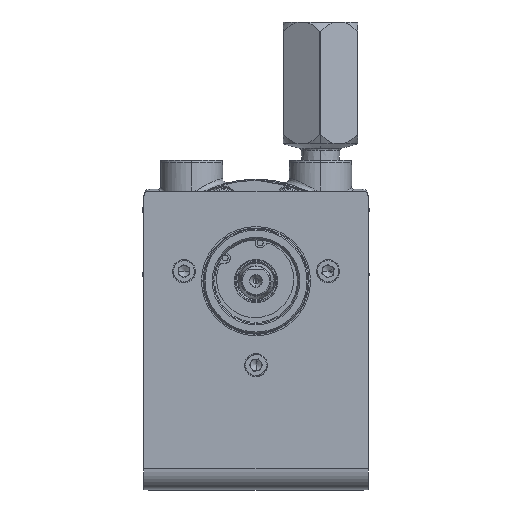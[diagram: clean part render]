
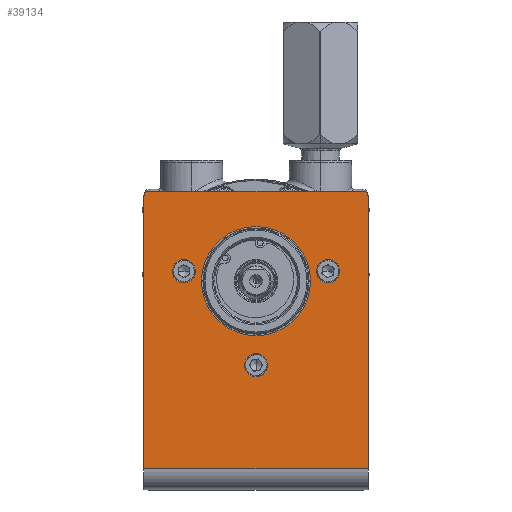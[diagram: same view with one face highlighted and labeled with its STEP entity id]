
A CAD part, top view. The second image highlights one B-rep face of the part: STEP entity #39134.
In plain terms, the highlighted planar face has unit normal (0, 0, 1).
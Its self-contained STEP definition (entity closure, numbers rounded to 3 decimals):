
#197 = VERTEX_POINT ( 'NONE', #8625 ) ;
#231 = DIRECTION ( 'NONE',  ( 0., -1., 0. ) ) ;
#381 = CARTESIAN_POINT ( 'NONE',  ( 47.75, 40.3, 33.025 ) ) ;
#426 = CIRCLE ( 'NONE', #26626, 23.25 ) ;
#516 = EDGE_CURVE ( 'NONE', #19846, #1721, #17754, .T. ) ;
#566 = EDGE_CURVE ( 'NONE', #13139, #29771, #46311, .T. ) ;
#1721 = VERTEX_POINT ( 'NONE', #41703 ) ;
#3548 = CARTESIAN_POINT ( 'NONE',  ( 0., 4., 33.025 ) ) ;
#5964 = ORIENTED_EDGE ( 'NONE', *, *, #566, .T. ) ;
#6533 = DIRECTION ( 'NONE',  ( 0., 0., -1. ) ) ;
#6697 = DIRECTION ( 'NONE',  ( 0., -1., 0. ) ) ;
#7436 = CIRCLE ( 'NONE', #20198, 3.5 ) ;
#7495 = FACE_BOUND ( 'NONE', #25667, .T. ) ;
#7626 = LINE ( 'NONE', #28562, #27120 ) ;
#7691 = CARTESIAN_POINT ( 'NONE',  ( 30.716, 4.73, 33.025 ) ) ;
#8625 = CARTESIAN_POINT ( 'NONE',  ( 45.75, 42.3, 33.025 ) ) ;
#9353 = CARTESIAN_POINT ( 'NONE',  ( 0., 27.25, 33.025 ) ) ;
#9468 = VERTEX_POINT ( 'NONE', #35779 ) ;
#9722 = DIRECTION ( 'NONE',  ( 0., 0., -1. ) ) ;
#9997 = DIRECTION ( 'NONE',  ( 0., 1., 0. ) ) ;
#10183 = CARTESIAN_POINT ( 'NONE',  ( 45.75, 40.3, 33.025 ) ) ;
#11072 = DIRECTION ( 'NONE',  ( 0., 0., -1. ) ) ;
#11123 = CARTESIAN_POINT ( 'NONE',  ( -30.716, 8.23, 33.025 ) ) ;
#11225 = EDGE_CURVE ( 'NONE', #20885, #42453, #426, .T. ) ;
#12069 = EDGE_CURVE ( 'NONE', #46582, #33706, #50120, .T. ) ;
#13139 = VERTEX_POINT ( 'NONE', #26346 ) ;
#13819 = DIRECTION ( 'NONE',  ( 0., 0., -1. ) ) ;
#13825 = EDGE_CURVE ( 'NONE', #9468, #43106, #37310, .T. ) ;
#14424 = CARTESIAN_POINT ( 'NONE',  ( 0., -31.8, 33.025 ) ) ;
#15077 = DIRECTION ( 'NONE',  ( 0., 0., -1. ) ) ;
#15779 = ORIENTED_EDGE ( 'NONE', *, *, #13825, .T. ) ;
#16068 = FACE_BOUND ( 'NONE', #22966, .T. ) ;
#16147 = EDGE_CURVE ( 'NONE', #38070, #46582, #29292, .T. ) ;
#16175 = ORIENTED_EDGE ( 'NONE', *, *, #37025, .T. ) ;
#16180 = EDGE_LOOP ( 'NONE', ( #44542, #35249, #29954, #15779, #50027, #20197 ) ) ;
#16942 = DIRECTION ( 'NONE',  ( 0., 0., -1. ) ) ;
#17557 = CARTESIAN_POINT ( 'NONE',  ( 30.716, 8.23, 33.025 ) ) ;
#17754 = CIRCLE ( 'NONE', #25315, 3.5 ) ;
#18945 = DIRECTION ( 'NONE',  ( 1., 0., 0. ) ) ;
#19692 = CIRCLE ( 'NONE', #42026, 3.5 ) ;
#19753 = ORIENTED_EDGE ( 'NONE', *, *, #11225, .T. ) ;
#19846 = VERTEX_POINT ( 'NONE', #34307 ) ;
#20197 = ORIENTED_EDGE ( 'NONE', *, *, #16147, .T. ) ;
#20198 = AXIS2_PLACEMENT_3D ( 'NONE', #11123, #15077, #49503 ) ;
#20796 = EDGE_LOOP ( 'NONE', ( #29708, #16175 ) ) ;
#20885 = VERTEX_POINT ( 'NONE', #9353 ) ;
#22489 = DIRECTION ( 'NONE',  ( 0., 0., 1. ) ) ;
#22883 = VERTEX_POINT ( 'NONE', #47418 ) ;
#22966 = EDGE_LOOP ( 'NONE', ( #5964, #50213 ) ) ;
#23156 = CARTESIAN_POINT ( 'NONE',  ( 47.75, -84.9, 33.025 ) ) ;
#23219 = ORIENTED_EDGE ( 'NONE', *, *, #33590, .T. ) ;
#23519 = CARTESIAN_POINT ( 'NONE',  ( 0., -28.3, 33.025 ) ) ;
#25238 = CIRCLE ( 'NONE', #44140, 3.5 ) ;
#25315 = AXIS2_PLACEMENT_3D ( 'NONE', #42238, #6533, #6697 ) ;
#25404 = CARTESIAN_POINT ( 'NONE',  ( -47.75, -84.9, 33.025 ) ) ;
#25667 = EDGE_LOOP ( 'NONE', ( #48625, #23219 ) ) ;
#26059 = AXIS2_PLACEMENT_3D ( 'NONE', #28152, #16942, #35836 ) ;
#26303 = DIRECTION ( 'NONE',  ( 0., -1., 0. ) ) ;
#26346 = CARTESIAN_POINT ( 'NONE',  ( 0., -35.3, 33.025 ) ) ;
#26410 = DIRECTION ( 'NONE',  ( 0., -1., 0. ) ) ;
#26421 = FACE_OUTER_BOUND ( 'NONE', #16180, .T. ) ;
#26626 = AXIS2_PLACEMENT_3D ( 'NONE', #3548, #11072, #46557 ) ;
#26956 = AXIS2_PLACEMENT_3D ( 'NONE', #14424, #49202, #26303 ) ;
#27120 = VECTOR ( 'NONE', #40133, 1000. ) ;
#27839 = ORIENTED_EDGE ( 'NONE', *, *, #50000, .T. ) ;
#28152 = CARTESIAN_POINT ( 'NONE',  ( 0., 4., 33.025 ) ) ;
#28562 = CARTESIAN_POINT ( 'NONE',  ( 47.75, 42.3, 33.025 ) ) ;
#29292 = LINE ( 'NONE', #30164, #46870 ) ;
#29464 = VECTOR ( 'NONE', #9997, 1000. ) ;
#29708 = ORIENTED_EDGE ( 'NONE', *, *, #33865, .T. ) ;
#29771 = VERTEX_POINT ( 'NONE', #23519 ) ;
#29907 = DIRECTION ( 'NONE',  ( 0., 1., 0. ) ) ;
#29954 = ORIENTED_EDGE ( 'NONE', *, *, #30606, .T. ) ;
#30164 = CARTESIAN_POINT ( 'NONE',  ( 47.75, -75.9, 33.025 ) ) ;
#30251 = EDGE_LOOP ( 'NONE', ( #27839, #19753 ) ) ;
#30606 = EDGE_CURVE ( 'NONE', #197, #9468, #7626, .T. ) ;
#31080 = CIRCLE ( 'NONE', #26059, 23.25 ) ;
#33038 = CARTESIAN_POINT ( 'NONE',  ( 30.716, 8.23, 33.025 ) ) ;
#33590 = EDGE_CURVE ( 'NONE', #1721, #19846, #7436, .T. ) ;
#33690 = FACE_BOUND ( 'NONE', #20796, .T. ) ;
#33706 = VERTEX_POINT ( 'NONE', #381 ) ;
#33865 = EDGE_CURVE ( 'NONE', #43839, #22883, #49936, .T. ) ;
#33875 = CARTESIAN_POINT ( 'NONE',  ( -47.75, -75.9, 33.025 ) ) ;
#34218 = AXIS2_PLACEMENT_3D ( 'NONE', #17557, #48787, #40296 ) ;
#34307 = CARTESIAN_POINT ( 'NONE',  ( -30.716, 4.73, 33.025 ) ) ;
#34929 = AXIS2_PLACEMENT_3D ( 'NONE', #23156, #50377, #231 ) ;
#35249 = ORIENTED_EDGE ( 'NONE', *, *, #49645, .T. ) ;
#35259 = LINE ( 'NONE', #25404, #48630 ) ;
#35779 = CARTESIAN_POINT ( 'NONE',  ( -45.75, 42.3, 33.025 ) ) ;
#35836 = DIRECTION ( 'NONE',  ( 0., -1., 0. ) ) ;
#36626 = DIRECTION ( 'NONE',  ( 0., -1., 0. ) ) ;
#36954 = DIRECTION ( 'NONE',  ( 0., -1., 0. ) ) ;
#37025 = EDGE_CURVE ( 'NONE', #22883, #43839, #25238, .T. ) ;
#37058 = CARTESIAN_POINT ( 'NONE',  ( 47.75, -84.9, 33.025 ) ) ;
#37121 = CARTESIAN_POINT ( 'NONE',  ( 0., -31.8, 33.025 ) ) ;
#37310 = CIRCLE ( 'NONE', #42697, 2. ) ;
#37407 = DIRECTION ( 'NONE',  ( 0., 0., 1. ) ) ;
#38070 = VERTEX_POINT ( 'NONE', #33875 ) ;
#39134 = ADVANCED_FACE ( 'NONE', ( #26421, #33690, #16068, #42190, #7495 ), #42882, .T. ) ;
#39504 = EDGE_CURVE ( 'NONE', #29771, #13139, #19692, .T. ) ;
#40133 = DIRECTION ( 'NONE',  ( -1., 0., 0. ) ) ;
#40296 = DIRECTION ( 'NONE',  ( 0., -1., 0. ) ) ;
#40992 = DIRECTION ( 'NONE',  ( 0., -1., 0. ) ) ;
#41082 = CARTESIAN_POINT ( 'NONE',  ( -47.75, 40.3, 33.025 ) ) ;
#41703 = CARTESIAN_POINT ( 'NONE',  ( -30.716, 11.73, 33.025 ) ) ;
#41853 = CARTESIAN_POINT ( 'NONE',  ( -45.75, 40.3, 33.025 ) ) ;
#41870 = CARTESIAN_POINT ( 'NONE',  ( 47.75, -75.9, 33.025 ) ) ;
#42026 = AXIS2_PLACEMENT_3D ( 'NONE', #37121, #13819, #40992 ) ;
#42190 = FACE_BOUND ( 'NONE', #30251, .T. ) ;
#42238 = CARTESIAN_POINT ( 'NONE',  ( -30.716, 8.23, 33.025 ) ) ;
#42453 = VERTEX_POINT ( 'NONE', #43531 ) ;
#42697 = AXIS2_PLACEMENT_3D ( 'NONE', #41853, #22489, #26410 ) ;
#42882 = PLANE ( 'NONE',  #34929 ) ;
#43106 = VERTEX_POINT ( 'NONE', #41082 ) ;
#43531 = CARTESIAN_POINT ( 'NONE',  ( 0., -19.25, 33.025 ) ) ;
#43839 = VERTEX_POINT ( 'NONE', #7691 ) ;
#44140 = AXIS2_PLACEMENT_3D ( 'NONE', #33038, #9722, #36954 ) ;
#44542 = ORIENTED_EDGE ( 'NONE', *, *, #12069, .T. ) ;
#44672 = EDGE_CURVE ( 'NONE', #43106, #38070, #35259, .T. ) ;
#46311 = CIRCLE ( 'NONE', #26956, 3.5 ) ;
#46557 = DIRECTION ( 'NONE',  ( 0., -1., 0. ) ) ;
#46582 = VERTEX_POINT ( 'NONE', #41870 ) ;
#46870 = VECTOR ( 'NONE', #18945, 1000. ) ;
#46912 = CIRCLE ( 'NONE', #48504, 2. ) ;
#47418 = CARTESIAN_POINT ( 'NONE',  ( 30.716, 11.73, 33.025 ) ) ;
#48504 = AXIS2_PLACEMENT_3D ( 'NONE', #10183, #37407, #29907 ) ;
#48625 = ORIENTED_EDGE ( 'NONE', *, *, #516, .T. ) ;
#48630 = VECTOR ( 'NONE', #36626, 1000. ) ;
#48787 = DIRECTION ( 'NONE',  ( 0., 0., -1. ) ) ;
#49202 = DIRECTION ( 'NONE',  ( 0., 0., -1. ) ) ;
#49503 = DIRECTION ( 'NONE',  ( 0., -1., 0. ) ) ;
#49645 = EDGE_CURVE ( 'NONE', #33706, #197, #46912, .T. ) ;
#49936 = CIRCLE ( 'NONE', #34218, 3.5 ) ;
#50000 = EDGE_CURVE ( 'NONE', #42453, #20885, #31080, .T. ) ;
#50027 = ORIENTED_EDGE ( 'NONE', *, *, #44672, .T. ) ;
#50120 = LINE ( 'NONE', #37058, #29464 ) ;
#50213 = ORIENTED_EDGE ( 'NONE', *, *, #39504, .T. ) ;
#50377 = DIRECTION ( 'NONE',  ( 0., 0., 1. ) ) ;
